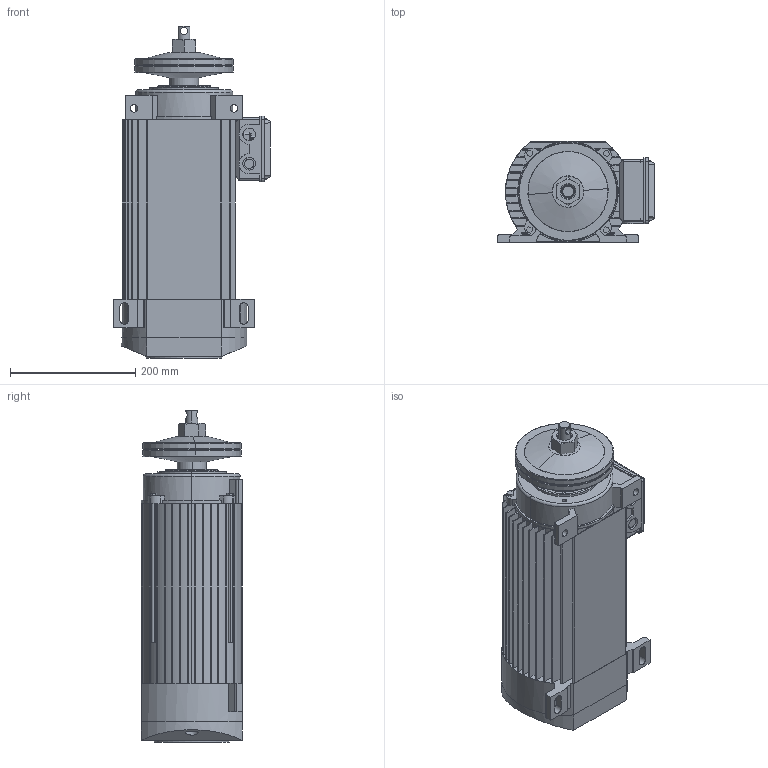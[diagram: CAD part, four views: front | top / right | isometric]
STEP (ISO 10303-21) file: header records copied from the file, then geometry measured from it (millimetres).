
FILE_DESCRIPTION (( 'STEP AP214' ), '1' );
FILE_NAME ('KSD_81B2.STEP', '2015-11-19T10:57:46', ( '' ), ( '' ), 'SwSTEP 2.0', 'SolidWorks 2012', '' );
FILE_SCHEMA (( 'AUTOMOTIVE_DESIGN' ));
Length unit declared in the file: millimetre
Products named in the file (10): Klemmenbrett_MS100; Zuganker_M6; Hex Nut GradeC_DIN_PreviewCfg; Klemmenscheibe_D160; Klemmenkastenunterteil_MS100; Klemmenkastendeckel_MS100; B_Lagerschild_81A2; A_Lagerschild_81A2; KSD_81B2_Stator; KSD_81B2
Assembly tree (12 placements, depth 2):
  KSD_81B2
    KSD_81B2_Stator
    A_Lagerschild_81A2
    B_Lagerschild_81A2
    Klemmenkastendeckel_MS100
    Klemmenkastenunterteil_MS100
    Klemmenscheibe_D160
    Hex Nut GradeC_DIN_PreviewCfg
    Zuganker_M6  x4
    Klemmenbrett_MS100
Bounding box: 250.5 x 161.5 x 530.25 mm (x, y, z)
Volume: 4983746.8 mm3; surface area: 1117722.9 mm2
Topology: 14 solids, 14 shells, 1515 faces, 4009 edges, 2636 vertices
Faces by surface type: plane 922, cylinder 375, bspline 140, cone 60, torus 18
Entity records: 54005 total; most frequent: CARTESIAN_POINT 17026, ORIENTED_EDGE 7838, DIRECTION 7060, EDGE_CURVE 3919, LINE 2738, VECTOR 2738, VERTEX_POINT 2588, AXIS2_PLACEMENT_3D 2161
